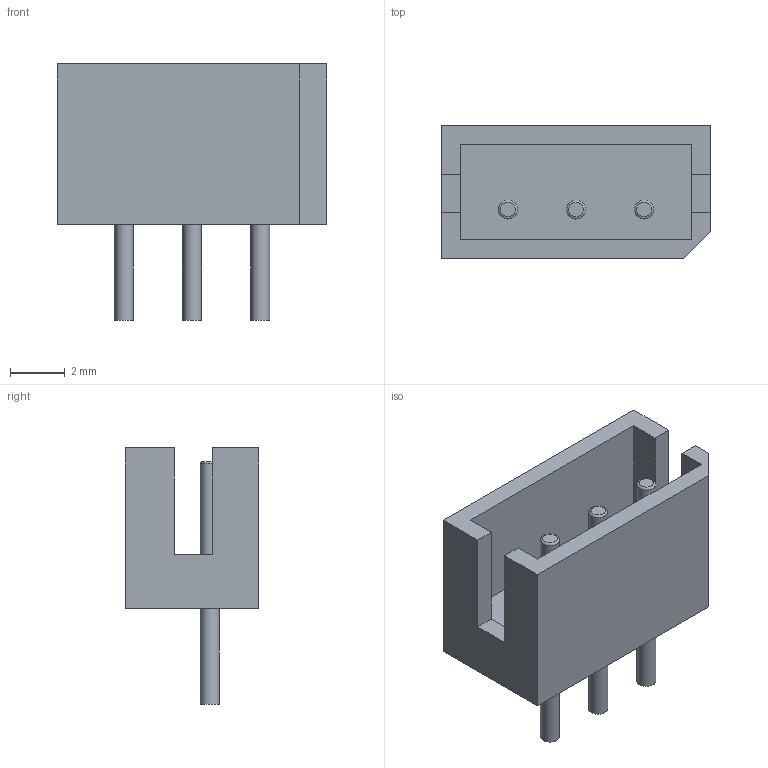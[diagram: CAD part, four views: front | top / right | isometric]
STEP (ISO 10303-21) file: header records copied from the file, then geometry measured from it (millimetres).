
FILE_DESCRIPTION(('Open CASCADE Model'),'2;1');
FILE_NAME('Open CASCADE Shape Model','2026-11-01T15:51:43',('Author'),( 'Open CASCADE'),'Open CASCADE STEP processor 7.9','Open CASCADE 7.9' ,'Unknown');
FILE_SCHEMA(('AUTOMOTIVE_DESIGN { 1 0 10303 214 1 1 1 1 }'));
Length unit declared in the file: millimetre
Products named in the file (5): Molex_22035035_dimensioned_reference; Keyed_natural_white_housing; Tin_contact_1; Tin_contact_2; Tin_contact_3
Assembly tree (4 placements, depth 2):
  Molex_22035035_dimensioned_reference
    Keyed_natural_white_housing
    Tin_contact_1
    Tin_contact_2
    Tin_contact_3
Bounding box: 9.9 x 4.9 x 9.4 mm (x, y, z)
Volume: 166.9 mm3; surface area: 413.1 mm2
Topology: 4 solids, 4 shells, 31 faces, 66 edges, 43 vertices
Faces by surface type: plane 25, cylinder 3, torus 3
Full cylindrical faces by diameter (mm): 0.7 x3
Entity records: 1790 total; most frequent: CARTESIAN_POINT 283, DIRECTION 276, LINE 174, VECTOR 174, ORIENTED_EDGE 132, PCURVE 132, DEFINITIONAL_REPRESENTATION 132, EDGE_CURVE 66
